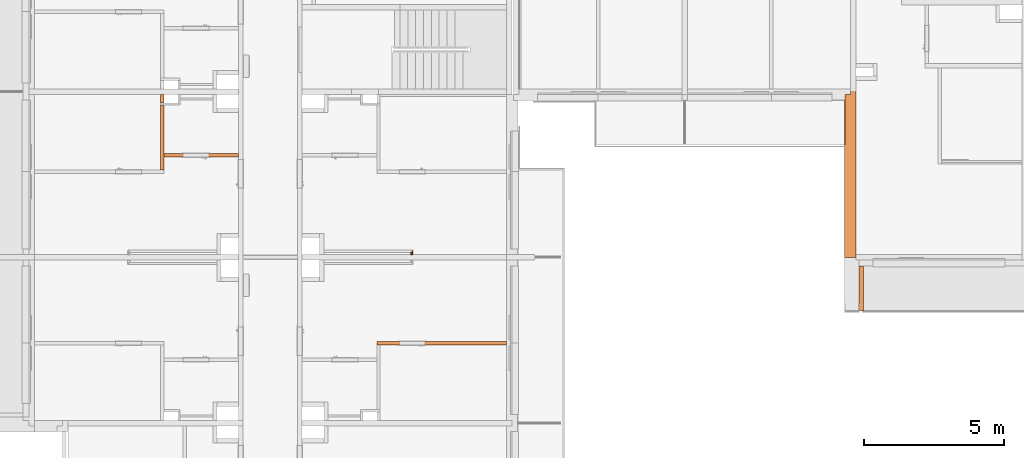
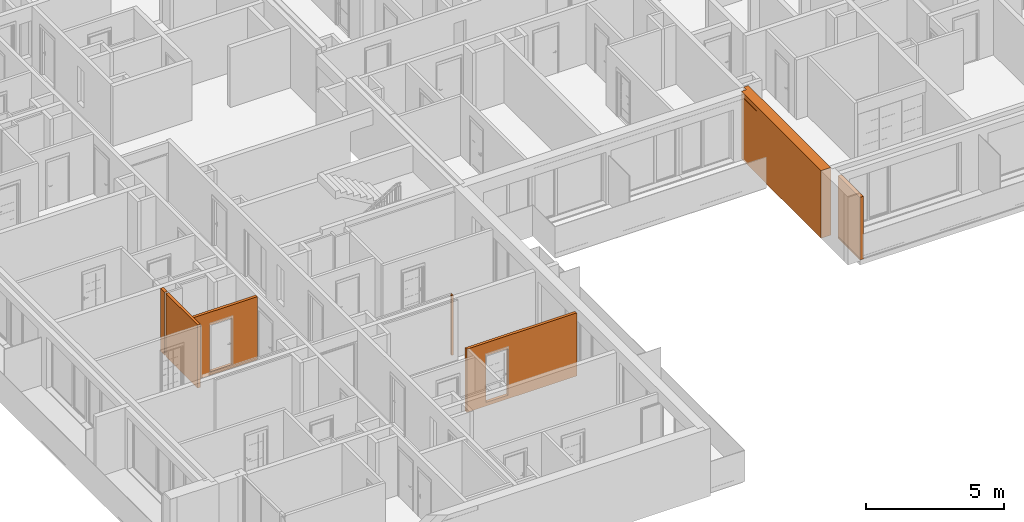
# One storey, part 53 of 66: 6 proxies, 2 openings.
"""IFC2X3 building model written with IfcOpenShell, lengths in millimetres."""

from ifc_helpers import new_model, entity, si_unit, converted_unit, derived_unit, money_unit, direction, frame, origin_with_axes, origin_2d_with_axis, place, context, subcontext, project, spatial, rectangle, extrude, faceted_brep, material, material_list, type_object, element, save


model = new_model("IFC2X3")

# Units and contexts
model_context = context("Model", 3, precision=0.01, world=origin_with_axes(), true_north=direction((0.34421633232, 0.938890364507)))
body_context = subcontext(model_context, "Body", "Model", "MODEL_VIEW")
ifc_project = project(units=[si_unit("LENGTHUNIT", "METRE", prefix="MILLI"), si_unit("AREAUNIT", "SQUARE_METRE"), si_unit("VOLUMEUNIT", "CUBIC_METRE"), converted_unit("PLANEANGLEUNIT", "DEGREE", entity("IfcPlaneAngleMeasure", 0.0174532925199), si_unit("PLANEANGLEUNIT", "RADIAN"), dimensions=[0, 0, 0, 0, 0, 0, 0]), si_unit("SOLIDANGLEUNIT", "STERADIAN"), money_unit("USD"), converted_unit("TIMEUNIT", "Year", entity("IfcTimeMeasure", 31556926.0), si_unit("TIMEUNIT", "SECOND"), dimensions=[0, 0, 1, 0, 0, 0, 0]), si_unit("MASSUNIT", "GRAM", prefix="KILO"), si_unit("THERMODYNAMICTEMPERATUREUNIT", "DEGREE_CELSIUS"), si_unit("LUMINOUSINTENSITYUNIT", "LUMEN"), si_unit("ENERGYUNIT", "JOULE", prefix="MEGA"), derived_unit("THERMALCONDUCTANCEUNIT", [(si_unit("POWERUNIT", "WATT"), 1), (si_unit("LENGTHUNIT", "METRE"), -1), (si_unit("THERMODYNAMICTEMPERATUREUNIT", "KELVIN"), -1)]), derived_unit("SPECIFICHEATCAPACITYUNIT", [(si_unit("ENERGYUNIT", "JOULE"), 1), (si_unit("MASSUNIT", "GRAM", prefix="KILO"), -1), (si_unit("THERMODYNAMICTEMPERATUREUNIT", "KELVIN"), -1)]), derived_unit("MASSDENSITYUNIT", [(si_unit("MASSUNIT", "GRAM", prefix="KILO"), 1), (si_unit("VOLUMEUNIT", "CUBIC_METRE"), -1)])], contexts=[model_context])

# Site, building, storey
site_placement = place(None, origin_with_axes())
site = spatial("IfcSite", under=ifc_project, at=site_placement, Name="USTRONIE MORSKIE", CompositionType="ELEMENT")
building_placement = place(site_placement, origin_with_axes())
building = spatial("IfcBuilding", under=site, at=building_placement, Name="Budynek", CompositionType="ELEMENT")
storey_placement = place(building_placement, frame((0.0, 0.0, 10000.0), z_axis=(0.0, 0.0, 1.0), x_axis=(1.0, 0.0, 0.0)))
storey = spatial("IfcBuildingStorey", under=building, at=storey_placement, Name="PIĘTRO 3", CompositionType="ELEMENT", Elevation=10000.0)

# Proxy, opening
ifc_material_1 = material(Name="Bloczki silikatowe")
building_element_proxy_type_1 = type_object("IfcBuildingElementProxyType", Name="Bloczki silikatowe 120", PredefinedType="NOTDEFINED")
proxy_1_placement = place(storey_placement, frame((354717.920919, 724641.179437, -160.0), z_axis=(0.0, 0.0, 1.0), x_axis=(1.0, 0.0, 0.0)))
proxy_1 = element("IfcBuildingElementProxy", 1, at=proxy_1_placement, inside=storey, type_object=building_element_proxy_type_1, material=ifc_material_1, Name="SW-04", context=body_context, shape_type="Brep", body=[
    faceted_brep([(2720.0, -59.9999999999, 2800.0), (2720.0, 59.9999999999, 2800.0), (60.0, 59.9999999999, 2800.0), (60.0, -59.9999999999, 2800.0), (2720.0, -59.9999999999, 0.0), (2720.0, 59.9999999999, 0.0), (60.0, 59.9999999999, 0.0), (60.0, -59.9999999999, 0.0)], [[[0, 1, 2, 3]], [[1, 0, 4, 5]], [[1, 5, 6, 2]], [[7, 3, 2, 6]], [[4, 0, 3, 7]], [[5, 4, 7, 6]]]),
])
opening_1_placement = place(proxy_1_placement, frame((1200.0, -1.13686837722e-10, 160.0), z_axis=(0.0, 0.0, 1.0), x_axis=(1.0, 0.0, 0.0)))
element("IfcOpeningElement", 2, at=opening_1_placement, cuts=proxy_1, Name="Dw.4", context=body_context, shape_type="SweptSolid", body=[
    extrude(rectangle(XDim=920.0, YDim=2070.0, at=origin_2d_with_axis()), frame((0.0, 120.0, 1035.0), z_axis=(0.0, -1.0, 0.0), x_axis=(-1.0, 0.0, 0.0)), (0.0, 0.0, 1.0), 360.0),
    extrude(rectangle(XDim=994.0, YDim=2177.0, at=origin_2d_with_axis()), frame((0.0, 60.0000000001, 1088.5), z_axis=(0.0, -1.0, 0.0), x_axis=(-1.0, 0.0, 0.0)), (0.0, 0.0, -1.0), 120.0),
    extrude(rectangle(XDim=994.0, YDim=2177.0, at=origin_2d_with_axis()), frame((0.0, -59.9999999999, 1088.5), z_axis=(0.0, 1.0, 0.0), x_axis=(-1.0, 0.0, 0.0)), (0.0, 0.0, -1.0), 120.0),
])

# Proxy
proxy_2_placement = place(storey_placement, frame((354717.920919, 726901.199036, -160.0), z_axis=(0.0, 0.0, 1.0), x_axis=(0.0, -1.0, 0.0)))
element("IfcBuildingElementProxy", 3, at=proxy_2_placement, inside=storey, type_object=building_element_proxy_type_1, material=ifc_material_1, Name="SW-04", context=body_context, shape_type="Brep", body=[
    faceted_brep([(400.000482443, 60.0, 0.0), (99.9999999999, 60.0, 0.0), (99.9999999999, 60.0, 2800.0), (400.000482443, 60.0, 2800.0), (400.000482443, -60.0, 0.0), (99.9999999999, -60.0, 0.0), (99.9999999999, -60.0, 2800.0), (400.000482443, -60.0, 2800.0)], [[[0, 1, 2, 3]], [[4, 5, 1, 0]], [[5, 6, 2, 1]], [[3, 2, 6, 7]], [[4, 0, 3, 7]], [[7, 6, 5, 4]]]),
    faceted_brep([(480.000482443, 60.0, 2800.0), (480.000482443, -60.0, 2800.0), (2790.01935038, -60.0, 2800.0), (2790.01935038, 60.0, 2800.0), (480.000482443, 60.0, 0.0), (480.000482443, -60.0, 0.0), (2790.01935038, -60.0, 0.0), (2790.01935038, 60.0, 0.0)], [[[0, 1, 2, 3]], [[1, 0, 4, 5]], [[1, 5, 6, 2]], [[7, 3, 2, 6]], [[4, 0, 3, 7]], [[5, 4, 7, 6]]]),
])

# Proxy, opening
proxy_3_placement = place(storey_placement, frame((362417.920919, 717951.218387, -160.0), z_axis=(0.0, 0.0, 1.0), x_axis=(1.0, 0.0, 0.0)))
proxy_3 = element("IfcBuildingElementProxy", 4, at=proxy_3_placement, inside=storey, type_object=building_element_proxy_type_1, material=ifc_material_1, Name="SW-04", context=body_context, shape_type="Brep", body=[
    faceted_brep([(4550.01788371, 59.9999999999, 0.0), (4550.0181358, -59.9999999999, 0.0), (-60.0, -59.9999999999, 0.0), (-60.0, 59.9999999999, 0.0), (4550.01788371, 59.9999999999, 2800.0), (4550.0181358, -59.9999999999, 2800.0), (-60.0, -59.9999999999, 2800.0), (-60.0, 59.9999999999, 2800.0)], [[[0, 1, 2, 3]], [[1, 0, 4, 5]], [[1, 5, 6, 2]], [[7, 3, 2, 6]], [[4, 0, 3, 7]], [[5, 4, 7, 6]]]),
])
opening_2_placement = place(proxy_3_placement, frame((1200.0, 0.0, 160.0), z_axis=(0.0, 0.0, 1.0), x_axis=(1.0, 0.0, 0.0)))
element("IfcOpeningElement", 5, at=opening_2_placement, cuts=proxy_3, Name="Dw.3", context=body_context, shape_type="SweptSolid", body=[
    extrude(rectangle(XDim=920.0, YDim=2070.0, at=origin_2d_with_axis()), frame((0.0, -120.0, 1035.0), z_axis=(0.0, 1.0, 0.0), x_axis=(-1.0, 0.0, 0.0)), (0.0, 0.0, 1.0), 360.0),
    extrude(rectangle(XDim=994.0, YDim=2177.0, at=origin_2d_with_axis()), frame((0.0, -59.9999999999, 1088.5), z_axis=(0.0, 1.0, 0.0), x_axis=(-1.0, 0.0, 0.0)), (0.0, 0.0, -1.0), 120.0),
    extrude(rectangle(XDim=994.0, YDim=2177.0, at=origin_2d_with_axis()), frame((0.0, 60.0000000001, 1088.5), z_axis=(0.0, -1.0, 0.0), x_axis=(-1.0, 0.0, 0.0)), (0.0, 0.0, -1.0), 120.0),
])

# Proxies
ifc_material_2 = material(Name="Beton konstrukcyjny B25")
ifc_material_3 = material(Name="Wełna ELEW")
ifc_material_4 = material(Name="Tynk zewnętrzny")
ifc_material_list_1 = material_list([ifc_material_2, ifc_material_3, ifc_material_4])
building_element_proxy_type_2 = type_object("IfcBuildingElementProxyType", Name="20+20 410", PredefinedType="NOTDEFINED")
proxy_4_placement = place(storey_placement, frame((379317.920919, 726901.199036, -160.0), z_axis=(0.0, 0.0, 1.0), x_axis=(0.0, -1.0, 0.0)))
element("IfcBuildingElementProxy", 6, at=proxy_4_placement, inside=storey, type_object=building_element_proxy_type_2, material=ifc_material_list_1, Name="SZ-01", context=body_context, shape_type="Brep", body=[
    faceted_brep([(0.0, 100.000011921, 2800.0), (-100.0, 100.000011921, 2800.0), (-100.0, 100.0, 3000.0), (5900.0, 100.0, 3000.0), (5900.0, 100.0, 0.0), (0.0, 100.000011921, 0.0), (0.0, -100.0, 2800.0), (-100.0, -100.0, 2800.0), (-100.0, -100.0, 3000.0), (5900.0, -100.0, 3000.0), (5900.0, -100.0, 0.0), (0.0, -100.0, 0.0)], [[[0, 1, 2, 3, 4, 5]], [[6, 7, 1, 0]], [[7, 8, 2, 1]], [[3, 2, 8, 9]], [[9, 10, 4, 3]], [[10, 11, 5, 4]], [[6, 0, 5, 11]], [[9, 8, 7, 6, 11, 10]]]),
    faceted_brep([(300.0, -299.758252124, 3000.0), (567.123743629, -300.0, 3000.0), (5900.0, -300.0, 3000.0), (5900.0, -100.0, 3000.0), (100.0, -100.0, 3000.0), (100.0, -300.0, 3000.0), (300.0, -300.0, 3000.0), (300.0, -299.758252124, 2800.0), (567.123743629, -300.0, 2800.0), (300.0, -300.0, 2800.0), (100.0, -300.000011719, 0.0), (300.0, -300.000011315, 0.0), (300.0, -300.0, 110.0), (890.418970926, -300.0, 110.0), (890.418970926, -300.0, 5.0), (890.43015523, -300.000010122, 0.0), (5900.0, -300.0, 0.0), (5900.0, -100.0, 0.0), (100.0, -100.0, 0.0), (300.0, -299.465668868, 0.0), (300.0, -299.465668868, 110.0)], [[[0, 1, 2, 3, 4, 5, 6]], [[1, 0, 7, 8]], [[9, 6, 5, 10, 11, 12, 13, 14, 15, 16, 2, 1, 8]], [[3, 2, 16, 17]], [[18, 4, 3, 17]], [[10, 5, 4, 18]], [[0, 6, 9, 7]], [[9, 8, 7]], [[19, 11, 10, 18, 17, 16, 15]], [[19, 20, 12, 11]], [[13, 12, 20]], [[14, 13, 20, 19, 15]]]),
    faceted_brep([(1900.00067759, -310.0, 0.0), (5900.0, -310.0, 0.0), (5900.0, -310.0, 3000.0), (1900.00067759, -310.0, 3000.0), (1900.00067759, -310.0, 2800.0), (300.0, -310.0, 2800.0), (300.0, -310.0, 110.0), (1900.00067759, -310.0, 110.0), (1900.00067759, -300.913674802, 0.0), (890.425412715, -300.00000583, 0.0), (5900.0, -300.0, 0.0), (5900.0, -300.0, 3000.0), (567.123743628, -300.0, 3000.0), (1900.00067759, -301.206258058, 3000.0), (1900.00067759, -301.206258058, 2800.0), (567.127479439, -300.000003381, 2800.0), (300.0, -300.00000596, 2800.0), (300.0, -300.000006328, 110.0), (890.42529197, -300.000005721, 110.0), (1900.00067759, -300.913674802, 110.0)], [[[0, 1, 2, 3, 4, 5, 6, 7]], [[1, 0, 8, 9, 10]], [[2, 1, 10, 11]], [[3, 2, 11, 12, 13]], [[4, 3, 13, 14]], [[5, 4, 14, 15, 16]], [[6, 5, 16, 17]], [[7, 6, 17, 18, 19]], [[0, 7, 19, 8]], [[8, 19, 18, 9]], [[11, 10, 9, 18, 17, 16, 15, 12]], [[14, 13, 12, 15]]]),
])
ifc_material_5 = material(Name="-Pustka powietrzna")
ifc_material_6 = material(Name="Płyta GK")
ifc_material_list_2 = material_list([ifc_material_5, ifc_material_6, ifc_material_6])
building_element_proxy_type_3 = type_object("IfcBuildingElementProxyType", Name="330-SD GK 2-warstwy 75", PredefinedType="NOTDEFINED")
proxy_5_placement = place(storey_placement, frame((363617.920919, 721001.199036, -180.0), z_axis=(0.0, 0.0, 1.0), x_axis=(0.0, 1.0, 0.0)))
element("IfcBuildingElementProxy", 7, at=proxy_5_placement, inside=storey, type_object=building_element_proxy_type_3, material=ifc_material_list_2, Name="Ściana-009", context=body_context, shape_type="Brep", body=[
    faceted_brep([(100.0, 0.0, 180.0), (180.0, 0.0, 180.0), (180.0, 0.0, 2820.0), (100.0, 0.0, 2820.0), (180.0, 50.0, 180.0), (100.0, 50.0, 180.0), (180.0, 50.0, 2820.0), (100.0, 50.0, 2820.0)], [[[0, 1, 2, 3]], [[4, 1, 0, 5]], [[1, 4, 6, 2]], [[6, 7, 3, 2]], [[5, 0, 3, 7]], [[4, 5, 7, 6]]]),
    faceted_brep([(100.0, -12.5, 165.0), (230.0, -12.5, 165.0), (230.0, -12.5, 2820.0), (100.0, -12.5, 2820.0), (230.0, 0.0, 165.0), (100.0, 0.0, 165.0), (230.0, 0.0, 2820.0), (100.0, 0.0, 2820.0)], [[[0, 1, 2, 3]], [[4, 1, 0, 5]], [[1, 4, 6, 2]], [[6, 7, 3, 2]], [[5, 0, 3, 7]], [[4, 5, 7, 6]]]),
    faceted_brep([(100.0, -25.0, 165.0), (242.5, -25.0, 165.0), (242.5, -25.0, 2820.0), (100.0, -25.0, 2820.0), (242.5, -12.5, 165.0), (100.0, -12.5, 165.0), (242.5, -12.5, 2820.0), (100.0, -12.5, 2820.0)], [[[0, 1, 2, 3]], [[4, 1, 0, 5]], [[1, 4, 6, 2]], [[6, 7, 3, 2]], [[5, 0, 3, 7]], [[4, 5, 7, 6]]]),
])
ifc_material_7 = material(Name="Laminat")
building_element_proxy_type_4 = type_object("IfcBuildingElementProxyType", Name="Laminat 150", PredefinedType="NOTDEFINED")
proxy_6_placement = place(storey_placement, frame((379602.920919, 720691.199036, -160.0), z_axis=(0.0, 0.0, 1.0), x_axis=(0.0, -1.0, 0.0)))
element("IfcBuildingElementProxy", 8, at=proxy_6_placement, inside=storey, type_object=building_element_proxy_type_4, material=ifc_material_7, Name="SW-03", context=body_context, shape_type="Brep", body=[
    faceted_brep([(0.0, 75.0, 2789.99999183), (-0.000681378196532, -75.0, 2789.99999183), (1600.03040031, -75.0, 2789.99999183), (1600.03040031, 75.0, 2789.99999183), (0.0, 75.0, 9.99999623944), (0.0, -75.0, 9.99999623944), (1600.03040031, -75.0, 10.0000009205), (1572.49971536, -75.0, 109.999995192), (1572.49971536, -75.0, 14.9999951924), (1547.49980813, -75.0, 14.9999951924), (1547.49980813, -75.0, 84.9999951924), (4.99980812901, -75.0, 84.9999951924), (4.99980812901, -75.0, 109.999995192), (1600.03040031, 75.0, 10.0000009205), (1547.49980813, 75.0, 84.9999951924), (1547.49980813, 75.0, 14.9999951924), (1572.49971536, 75.0, 14.9999951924), (1572.49971536, 75.0, 109.999995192), (4.99980812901, 75.0, 109.999995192), (4.99980812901, 75.0, 84.9999951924)], [[[0, 1, 2, 3]], [[0, 4, 5, 1]], [[1, 5, 6, 2], [7, 8, 9, 10, 11, 12]], [[2, 6, 13, 3]], [[3, 13, 4, 0], [14, 15, 16, 17, 18, 19]], [[13, 6, 5, 4]], [[16, 8, 7, 17]], [[15, 9, 8, 16]], [[14, 10, 9, 15]], [[19, 11, 10, 14]], [[18, 12, 11, 19]], [[17, 7, 12, 18]]]),
])

save(model, "model.ifc")
